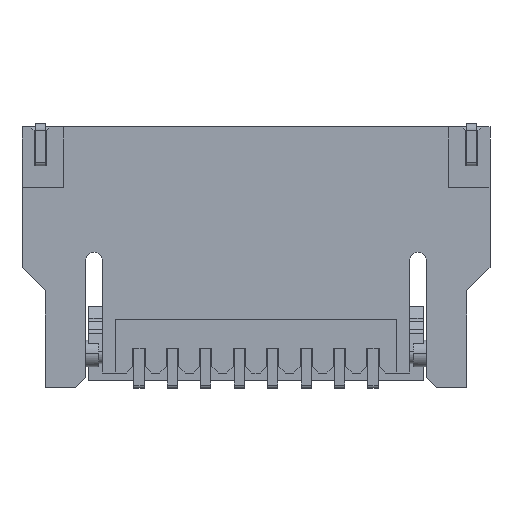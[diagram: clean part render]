
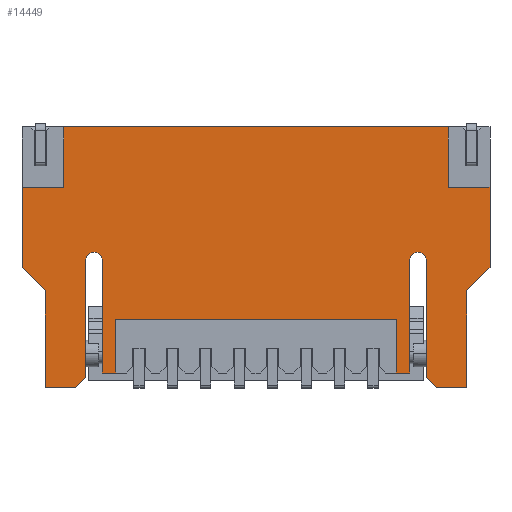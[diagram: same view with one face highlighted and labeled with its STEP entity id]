
A CAD part, front view. The second image highlights one B-rep face of the part: STEP entity #14449.
In plain terms, the highlighted planar face has unit normal (0, -1, 0).
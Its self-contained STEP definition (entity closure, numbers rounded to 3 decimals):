
#105=DIRECTION('',(0.,0.,1.));
#106=VECTOR('',#105,0.8);
#107=CARTESIAN_POINT('',(2.4,-0.6,-3.68));
#108=LINE('',#107,#106);
#109=DIRECTION('',(1.,0.,0.));
#110=VECTOR('',#109,0.2);
#111=CARTESIAN_POINT('',(2.2,-0.6,-3.68));
#112=LINE('',#111,#110);
#113=DIRECTION('',(0.,0.,-1.));
#114=VECTOR('',#113,1.68);
#115=CARTESIAN_POINT('',(2.2,-0.6,-2.));
#116=LINE('',#115,#114);
#117=CARTESIAN_POINT('',(2.075,-0.6,-2.));
#118=DIRECTION('',(0.,1.,0.));
#119=DIRECTION('',(-1.,0.,0.));
#120=AXIS2_PLACEMENT_3D('',#117,#118,#119);
#122=DIRECTION('',(0.,0.,1.));
#123=VECTOR('',#122,1.75);
#124=CARTESIAN_POINT('',(1.95,-0.6,-3.75));
#125=LINE('',#124,#123);
#126=DIRECTION('',(0.707,0.,0.707));
#127=VECTOR('',#126,0.212);
#128=CARTESIAN_POINT('',(1.8,-0.6,-3.9));
#129=LINE('',#128,#127);
#130=DIRECTION('',(1.,0.,0.));
#131=VECTOR('',#130,0.45);
#132=CARTESIAN_POINT('',(1.35,-0.6,-3.9));
#133=LINE('',#132,#131);
#134=DIRECTION('',(0.,0.,-1.));
#135=VECTOR('',#134,1.45);
#136=CARTESIAN_POINT('',(1.35,-0.6,-2.45));
#137=LINE('',#136,#135);
#138=DIRECTION('',(0.707,0.,-0.707));
#139=VECTOR('',#138,0.495);
#140=CARTESIAN_POINT('',(1.,-0.6,-2.1));
#141=LINE('',#140,#139);
#142=DIRECTION('',(-1.,0.,0.));
#143=VECTOR('',#142,0.625);
#144=CARTESIAN_POINT('',(1.625,-0.6,-0.9));
#145=LINE('',#144,#143);
#146=DIRECTION('',(0.,0.,-1.));
#147=VECTOR('',#146,0.9);
#148=CARTESIAN_POINT('',(1.625,-0.6,0.));
#149=LINE('',#148,#147);
#150=DIRECTION('',(1.,0.,0.));
#151=VECTOR('',#150,5.75);
#152=CARTESIAN_POINT('',(1.625,-0.6,0.));
#153=LINE('',#152,#151);
#154=DIRECTION('',(0.,0.,-1.));
#155=VECTOR('',#154,0.9);
#156=CARTESIAN_POINT('',(7.375,-0.6,0.));
#157=LINE('',#156,#155);
#158=DIRECTION('',(1.,0.,0.));
#159=VECTOR('',#158,0.625);
#160=CARTESIAN_POINT('',(7.375,-0.6,-0.9));
#161=LINE('',#160,#159);
#162=DIRECTION('',(-0.707,0.,-0.707));
#163=VECTOR('',#162,0.495);
#164=CARTESIAN_POINT('',(8.,-0.6,-2.1));
#165=LINE('',#164,#163);
#166=DIRECTION('',(0.,0.,-1.));
#167=VECTOR('',#166,1.45);
#168=CARTESIAN_POINT('',(7.65,-0.6,-2.45));
#169=LINE('',#168,#167);
#170=DIRECTION('',(-1.,0.,0.));
#171=VECTOR('',#170,0.45);
#172=CARTESIAN_POINT('',(7.65,-0.6,-3.9));
#173=LINE('',#172,#171);
#174=DIRECTION('',(-0.707,0.,0.707));
#175=VECTOR('',#174,0.212);
#176=CARTESIAN_POINT('',(7.2,-0.6,-3.9));
#177=LINE('',#176,#175);
#178=DIRECTION('',(0.,0.,1.));
#179=VECTOR('',#178,1.75);
#180=CARTESIAN_POINT('',(7.05,-0.6,-3.75));
#181=LINE('',#180,#179);
#182=CARTESIAN_POINT('',(6.925,-0.6,-2.));
#183=DIRECTION('',(0.,-1.,0.));
#184=DIRECTION('',(1.,0.,0.));
#185=AXIS2_PLACEMENT_3D('',#182,#183,#184);
#187=DIRECTION('',(0.,0.,-1.));
#188=VECTOR('',#187,1.68);
#189=CARTESIAN_POINT('',(6.8,-0.6,-2.));
#190=LINE('',#189,#188);
#191=DIRECTION('',(-1.,0.,0.));
#192=VECTOR('',#191,0.2);
#193=CARTESIAN_POINT('',(6.8,-0.6,-3.68));
#194=LINE('',#193,#192);
#195=DIRECTION('',(0.,0.,1.));
#196=VECTOR('',#195,0.8);
#197=CARTESIAN_POINT('',(6.6,-0.6,-3.68));
#198=LINE('',#197,#196);
#203=DIRECTION('',(1.,0.,0.));
#204=VECTOR('',#203,4.2);
#205=CARTESIAN_POINT('',(2.4,-0.6,-2.88));
#206=LINE('',#205,#204);
#4225=DIRECTION('',(0.,0.,1.));
#4226=VECTOR('',#4225,1.2);
#4227=CARTESIAN_POINT('',(1.,-0.6,-2.1));
#4228=LINE('',#4227,#4226);
#7580=DIRECTION('',(0.,0.,1.));
#7581=VECTOR('',#7580,1.2);
#7582=CARTESIAN_POINT('',(8.,-0.6,-2.1));
#7583=LINE('',#7582,#7581);
#10799=CARTESIAN_POINT('',(7.375,-0.6,0.));
#10800=VERTEX_POINT('',#10799);
#11183=CARTESIAN_POINT('',(6.8,-0.6,-3.68));
#11184=VERTEX_POINT('',#11183);
#11185=CARTESIAN_POINT('',(6.8,-0.6,-2.));
#11186=VERTEX_POINT('',#11185);
#11291=CARTESIAN_POINT('',(6.6,-0.6,-3.68));
#11292=CARTESIAN_POINT('',(6.6,-0.6,-2.88));
#11293=VERTEX_POINT('',#11291);
#11294=VERTEX_POINT('',#11292);
#11295=CARTESIAN_POINT('',(7.375,-0.6,-0.9));
#11296=VERTEX_POINT('',#11295);
#11297=CARTESIAN_POINT('',(8.,-0.6,-0.9));
#11298=VERTEX_POINT('',#11297);
#11299=CARTESIAN_POINT('',(8.,-0.6,-2.1));
#11300=VERTEX_POINT('',#11299);
#11301=CARTESIAN_POINT('',(7.65,-0.6,-2.45));
#11302=VERTEX_POINT('',#11301);
#11303=CARTESIAN_POINT('',(7.65,-0.6,-3.9));
#11304=VERTEX_POINT('',#11303);
#11305=CARTESIAN_POINT('',(7.2,-0.6,-3.9));
#11306=VERTEX_POINT('',#11305);
#11307=CARTESIAN_POINT('',(7.05,-0.6,-3.75));
#11308=VERTEX_POINT('',#11307);
#11309=CARTESIAN_POINT('',(7.05,-0.6,-2.));
#11310=VERTEX_POINT('',#11309);
#12563=CARTESIAN_POINT('',(1.625,-0.6,0.));
#12564=VERTEX_POINT('',#12563);
#12947=CARTESIAN_POINT('',(2.2,-0.6,-3.68));
#12948=VERTEX_POINT('',#12947);
#12949=CARTESIAN_POINT('',(2.2,-0.6,-2.));
#12950=VERTEX_POINT('',#12949);
#13055=CARTESIAN_POINT('',(2.4,-0.6,-3.68));
#13056=CARTESIAN_POINT('',(2.4,-0.6,-2.88));
#13057=VERTEX_POINT('',#13055);
#13058=VERTEX_POINT('',#13056);
#13059=CARTESIAN_POINT('',(1.625,-0.6,-0.9));
#13060=VERTEX_POINT('',#13059);
#13061=CARTESIAN_POINT('',(1.,-0.6,-0.9));
#13062=VERTEX_POINT('',#13061);
#13063=CARTESIAN_POINT('',(1.,-0.6,-2.1));
#13064=VERTEX_POINT('',#13063);
#13065=CARTESIAN_POINT('',(1.35,-0.6,-2.45));
#13066=VERTEX_POINT('',#13065);
#13067=CARTESIAN_POINT('',(1.35,-0.6,-3.9));
#13068=VERTEX_POINT('',#13067);
#13069=CARTESIAN_POINT('',(1.8,-0.6,-3.9));
#13070=VERTEX_POINT('',#13069);
#13071=CARTESIAN_POINT('',(1.95,-0.6,-3.75));
#13072=VERTEX_POINT('',#13071);
#13073=CARTESIAN_POINT('',(1.95,-0.6,-2.));
#13074=VERTEX_POINT('',#13073);
#14391=CARTESIAN_POINT('',(4.,-0.6,-1.95));
#14392=DIRECTION('',(0.,1.,0.));
#14393=DIRECTION('',(1.,0.,0.));
#14394=AXIS2_PLACEMENT_3D('',#14391,#14392,#14393);
#14395=PLANE('',#14394);
#14397=ORIENTED_EDGE('',*,*,#14396,.F.);
#14399=ORIENTED_EDGE('',*,*,#14398,.F.);
#14401=ORIENTED_EDGE('',*,*,#14400,.F.);
#14403=ORIENTED_EDGE('',*,*,#14402,.F.);
#14405=ORIENTED_EDGE('',*,*,#14404,.F.);
#14407=ORIENTED_EDGE('',*,*,#14406,.F.);
#14409=ORIENTED_EDGE('',*,*,#14408,.F.);
#14411=ORIENTED_EDGE('',*,*,#14410,.F.);
#14413=ORIENTED_EDGE('',*,*,#14412,.F.);
#14415=ORIENTED_EDGE('',*,*,#14414,.F.);
#14417=ORIENTED_EDGE('',*,*,#14416,.T.);
#14419=ORIENTED_EDGE('',*,*,#14418,.F.);
#14421=ORIENTED_EDGE('',*,*,#14420,.F.);
#14422=ORIENTED_EDGE('',*,*,#14284,.T.);
#14424=ORIENTED_EDGE('',*,*,#14423,.T.);
#14426=ORIENTED_EDGE('',*,*,#14425,.T.);
#14428=ORIENTED_EDGE('',*,*,#14427,.F.);
#14430=ORIENTED_EDGE('',*,*,#14429,.T.);
#14432=ORIENTED_EDGE('',*,*,#14431,.T.);
#14434=ORIENTED_EDGE('',*,*,#14433,.T.);
#14436=ORIENTED_EDGE('',*,*,#14435,.T.);
#14438=ORIENTED_EDGE('',*,*,#14437,.T.);
#14440=ORIENTED_EDGE('',*,*,#14439,.T.);
#14442=ORIENTED_EDGE('',*,*,#14441,.T.);
#14444=ORIENTED_EDGE('',*,*,#14443,.T.);
#14446=ORIENTED_EDGE('',*,*,#14445,.T.);
#14447=EDGE_LOOP('',(#14397,#14399,#14401,#14403,#14405,#14407,#14409,#14411,
#14413,#14415,#14417,#14419,#14421,#14422,#14424,#14426,#14428,#14430,#14432,
#14434,#14436,#14438,#14440,#14442,#14444,#14446));
#14448=FACE_OUTER_BOUND('',#14447,.F.);
#121=CIRCLE('',#120,0.125);
#186=CIRCLE('',#185,0.125);
#14284=EDGE_CURVE('',#12564,#10800,#153,.T.);
#14396=EDGE_CURVE('',#13058,#11294,#206,.T.);
#14398=EDGE_CURVE('',#13057,#13058,#108,.T.);
#14400=EDGE_CURVE('',#12948,#13057,#112,.T.);
#14402=EDGE_CURVE('',#12950,#12948,#116,.T.);
#14404=EDGE_CURVE('',#13074,#12950,#121,.T.);
#14406=EDGE_CURVE('',#13072,#13074,#125,.T.);
#14408=EDGE_CURVE('',#13070,#13072,#129,.T.);
#14410=EDGE_CURVE('',#13068,#13070,#133,.T.);
#14412=EDGE_CURVE('',#13066,#13068,#137,.T.);
#14414=EDGE_CURVE('',#13064,#13066,#141,.T.);
#14416=EDGE_CURVE('',#13064,#13062,#4228,.T.);
#14418=EDGE_CURVE('',#13060,#13062,#145,.T.);
#14420=EDGE_CURVE('',#12564,#13060,#149,.T.);
#14423=EDGE_CURVE('',#10800,#11296,#157,.T.);
#14425=EDGE_CURVE('',#11296,#11298,#161,.T.);
#14427=EDGE_CURVE('',#11300,#11298,#7583,.T.);
#14429=EDGE_CURVE('',#11300,#11302,#165,.T.);
#14431=EDGE_CURVE('',#11302,#11304,#169,.T.);
#14433=EDGE_CURVE('',#11304,#11306,#173,.T.);
#14435=EDGE_CURVE('',#11306,#11308,#177,.T.);
#14437=EDGE_CURVE('',#11308,#11310,#181,.T.);
#14439=EDGE_CURVE('',#11310,#11186,#186,.T.);
#14441=EDGE_CURVE('',#11186,#11184,#190,.T.);
#14443=EDGE_CURVE('',#11184,#11293,#194,.T.);
#14445=EDGE_CURVE('',#11293,#11294,#198,.T.);
#14449=ADVANCED_FACE('',(#14448),#14395,.F.);
